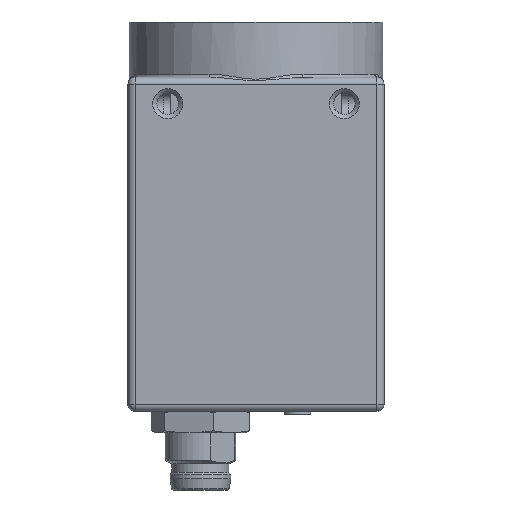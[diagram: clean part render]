
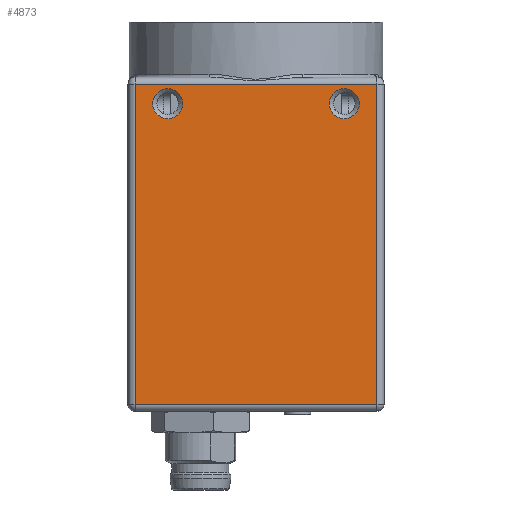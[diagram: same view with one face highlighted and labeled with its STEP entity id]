
A CAD part, left-side view. The second image highlights one B-rep face of the part: STEP entity #4873.
In plain terms, the highlighted planar face has unit normal (-1, 0, 0).
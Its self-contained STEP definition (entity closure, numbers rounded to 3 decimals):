
#4873 = ADVANCED_FACE( '', ( #10798, #10799, #10800 ), #10801, .T. );
#10798 = FACE_BOUND( '', #19599, .T. );
#10799 = FACE_BOUND( '', #19600, .T. );
#10800 = FACE_OUTER_BOUND( '', #19601, .T. );
#10801 = PLANE( '', #19602 );
#19599 = EDGE_LOOP( '', ( #32328 ) );
#19600 = EDGE_LOOP( '', ( #32329 ) );
#19601 = EDGE_LOOP( '', ( #32330, #32331, #32332, #32333 ) );
#19602 = AXIS2_PLACEMENT_3D( '', #32334, #32335, #32336 );
#32328 = ORIENTED_EDGE( '', *, *, #40418, .T. );
#32329 = ORIENTED_EDGE( '', *, *, #40419, .T. );
#32330 = ORIENTED_EDGE( '', *, *, #39078, .T. );
#32331 = ORIENTED_EDGE( '', *, *, #40420, .T. );
#32332 = ORIENTED_EDGE( '', *, *, #39502, .T. );
#32333 = ORIENTED_EDGE( '', *, *, #40421, .T. );
#32334 = CARTESIAN_POINT( '', ( -14.5, -14.5, 12.2 ) );
#32335 = DIRECTION( '', ( -1., 0., 0. ) );
#32336 = DIRECTION( '', ( 0., 0., 1. ) );
#39078 = EDGE_CURVE( '', #45412, #45413, #45414, .T. );
#39502 = EDGE_CURVE( '', #46006, #43349, #46007, .T. );
#40418 = EDGE_CURVE( '', #47143, #47143, #47144, .T. );
#40419 = EDGE_CURVE( '', #47145, #47145, #47146, .T. );
#40420 = EDGE_CURVE( '', #45413, #46006, #47147, .F. );
#40421 = EDGE_CURVE( '', #43349, #45412, #47148, .T. );
#43349 = VERTEX_POINT( '', #51450 );
#45412 = VERTEX_POINT( '', #54571 );
#45413 = VERTEX_POINT( '', #54572 );
#45414 = LINE( '', #54573, #54574 );
#46006 = VERTEX_POINT( '', #55674 );
#46007 = LINE( '', #55675, #55676 );
#47143 = VERTEX_POINT( '', #57523 );
#47144 = CIRCLE( '', #57524, 1.7 );
#47145 = VERTEX_POINT( '', #57525 );
#47146 = CIRCLE( '', #57526, 1.7 );
#47147 = LINE( '', #57527, #57528 );
#47148 = LINE( '', #57529, #57530 );
#51450 = CARTESIAN_POINT( '', ( -14.5, 13.7, 11.4 ) );
#54571 = CARTESIAN_POINT( '', ( -14.5, 13.7, -24.85 ) );
#54572 = CARTESIAN_POINT( '', ( -14.5, -13.7, -24.85 ) );
#54573 = CARTESIAN_POINT( '', ( -14.5, -14.5, -24.85 ) );
#54574 = VECTOR( '', #61846, 1000. );
#55674 = CARTESIAN_POINT( '', ( -14.5, -13.7, 11.4 ) );
#55675 = CARTESIAN_POINT( '', ( -14.5, 14.5, 11.4 ) );
#55676 = VECTOR( '', #62250, 1000. );
#57523 = CARTESIAN_POINT( '', ( -14.5, -8.3, 9.2 ) );
#57524 = AXIS2_PLACEMENT_3D( '', #63143, #63144, #63145 );
#57525 = CARTESIAN_POINT( '', ( -14.5, 11.7, 9.2 ) );
#57526 = AXIS2_PLACEMENT_3D( '', #63146, #63147, #63148 );
#57527 = CARTESIAN_POINT( '', ( -14.5, -13.7, 12.2 ) );
#57528 = VECTOR( '', #63149, 1000. );
#57529 = CARTESIAN_POINT( '', ( -14.5, 13.7, 12.2 ) );
#57530 = VECTOR( '', #63150, 1000. );
#61846 = DIRECTION( '', ( 0., -1., 0. ) );
#62250 = DIRECTION( '', ( 0., 1., 0. ) );
#63143 = CARTESIAN_POINT( '', ( -14.5, -10., 9.2 ) );
#63144 = DIRECTION( '', ( 1., 0., 0. ) );
#63145 = DIRECTION( '', ( 0., 1., 0. ) );
#63146 = CARTESIAN_POINT( '', ( -14.5, 10., 9.2 ) );
#63147 = DIRECTION( '', ( 1., 0., 0. ) );
#63148 = DIRECTION( '', ( 0., 1., 0. ) );
#63149 = DIRECTION( '', ( 0., 0., -1. ) );
#63150 = DIRECTION( '', ( 0., 0., -1. ) );
